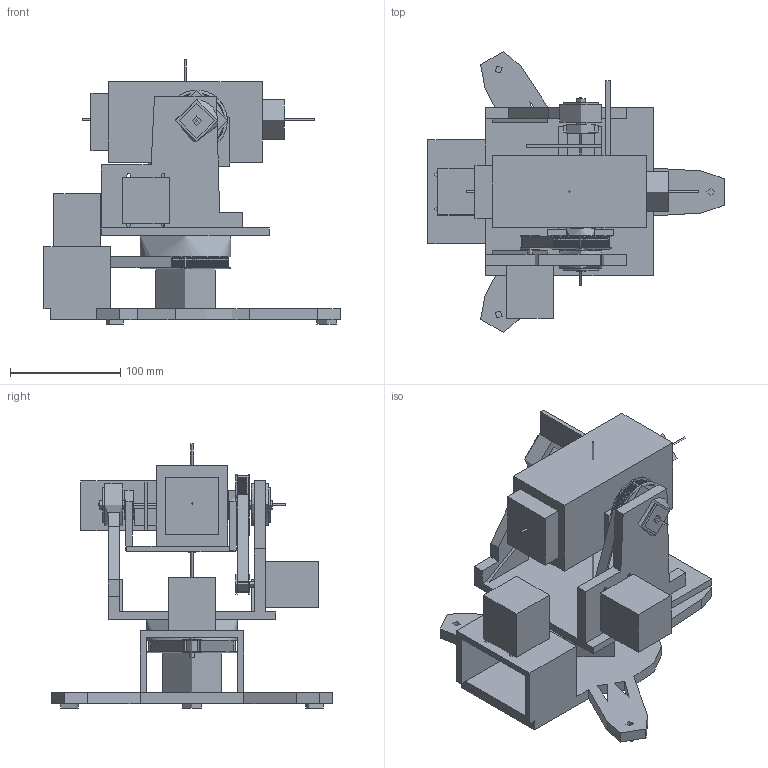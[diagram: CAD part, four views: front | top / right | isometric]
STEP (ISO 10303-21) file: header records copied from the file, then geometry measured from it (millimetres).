
FILE_DESCRIPTION(('FreeCAD Model'),'2;1');
FILE_NAME('Open CASCADE Shape Model','2026-08-28T20:43:35',('Author'),( ''),'Open CASCADE STEP processor 7.8','FreeCAD','Unknown');
FILE_SCHEMA(('AUTOMOTIVE_DESIGN { 1 0 10303 214 1 1 1 1 }'));
Length unit declared in the file: millimetre
Products named in the file (46): pantilt_hc_v760_reference_v8_51107_integral_pan_gt2; PAN_TILT_REFERENCE_V8_51107_INTEGRAL_PAN_GT2; BaseFixed; BASE_rubber_foot_0; BASE_rubber_foot_120; BASE_rubber_foot_240; BASE_three_leg_frame_51107_608_motor_mount; BASE_pan_motor_NEMA17; BASE_pan_motor_pilot; BASE_pan_motor_shaft; BASE_pan_motor_20T_pulley; BASE_pan_motor_20T_flanges; BASE_pan_608_radial_bearing_press_fit; BASE_pan_51107_lower_housing_washer; BASE_pan_51107_ball_cage; BASE_pan_51107_upper_shaft_washer; PanRotating; TiltRotating; TILT_ROTATING_one_piece_cradle_trunnions_80T; CAMERA_HC_V760_body_placeholder; CAMERA_HC_V760_lens; CAMERA_HC_V760_rear_battery; CAMERA_flip_screen_clearance_closed; CAMERA_flip_screen_clearance_open; CAMERA_HDMI_cable_clearance_20mm; CAMERA_nominal_COG; CAMERA_optical_axis; TILT_ROTATING_camera_mount_screw; PAN_ROTATING_one_piece_platform_journal_120T_GT2; BASE_pan_GT2_350mm_belt; PAN_ROTATING_left_608_bearing; PAN_ROTATING_right_608_bearing; PAN_ROTATING_left_bearing_cap; PAN_ROTATING_right_bearing_cap; PAN_ROTATING_tilt_motor_NEMA17; PAN_ROTATING_tilt_motor_pilot; PAN_ROTATING_tilt_motor_shaft; PAN_ROTATING_tilt_motor_20T_pulley; PAN_ROTATING_tilt_motor_20T_flanges; PAN_ROTATING_tilt_GT2_280mm_belt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
Assembly tree (112 placements, depth 5):
  pantilt_hc_v760_reference_v8_51107_integral_pan_gt2
    PAN_TILT_REFERENCE_V8_51107_INTEGRAL_PAN_GT2
      BaseFixed
        BASE_rubber_foot_0
        BASE_rubber_foot_120
        BASE_rubber_foot_240
        BASE_three_leg_frame_51107_608_motor_mount
        BASE_pan_motor_NEMA17
        BASE_pan_motor_pilot
        BASE_pan_motor_shaft
        BASE_pan_motor_20T_pulley
        BASE_pan_motor_20T_flanges
        BASE_pan_608_radial_bearing_press_fit
        BASE_pan_51107_lower_housing_washer
        BASE_pan_51107_ball_cage
        BASE_pan_51107_upper_shaft_washer
      PanRotating
        TiltRotating
          TILT_ROTATING_one_piece_cradle_trunnions_80T
          CAMERA_HC_V760_body_placeholder
          CAMERA_HC_V760_lens
          CAMERA_HC_V760_rear_battery
          CAMERA_flip_screen_clearance_closed
          CAMERA_flip_screen_clearance_open
          CAMERA_HDMI_cable_clearance_20mm
          CAMERA_nominal_COG
          CAMERA_optical_axis
          TILT_ROTATING_camera_mount_screw
        PAN_ROTATING_one_piece_platform_journal_120T_GT2
        BASE_pan_GT2_350mm_belt
        PAN_ROTATING_left_608_bearing
        PAN_ROTATING_right_608_bearing
        PAN_ROTATING_left_bearing_cap
        PAN_ROTATING_right_bearing_cap
        PAN_ROTATING_tilt_motor_NEMA17
        PAN_ROTATING_tilt_motor_pilot
        PAN_ROTATING_tilt_motor_shaft
        PAN_ROTATING_tilt_motor_20T_pulley
        PAN_ROTATING_tilt_motor_20T_flanges
        PAN_ROTATING_tilt_GT2_280mm_belt
      References
        REFERENCE_pan_axis
        REFERENCE_tilt_axis
    X-axis  x15
    XY-plane  x15
    BaseFixed
      BASE_rubber_foot_0
      BASE_rubber_foot_120
      BASE_rubber_foot_240
      BASE_three_leg_frame_51107_608_motor_mount
      BASE_pan_motor_NEMA17
      BASE_pan_motor_pilot
      BASE_pan_motor_shaft
      BASE_pan_motor_20T_pulley
      BASE_pan_motor_20T_flanges
      BASE_pan_608_radial_bearing_press_fit
      BASE_pan_51107_lower_housing_washer
      BASE_pan_51107_ball_cage
      BASE_pan_51107_upper_shaft_washer
    PanRotating
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Bounding box: 268 x 254.49 x 239 mm (x, y, z)
Volume: 6489040.1 mm3; surface area: 1252234.1 mm2
Topology: 176 solids, 176 shells, 5302 faces, 15008 edges, 10021 vertices
Faces by surface type: cylinder 3700, plane 1565, sphere 37
Full cylindrical faces by diameter (mm): 1.8 x4, 2 x4, 5 x24, 6.2 x4, 7.2 x9, 7.9 x11, 8 x9, 8.5 x6, 8.6 x6, 10.732 x6, 13.932 x6, 14.732 x6, 17.732 x12, 18 x9, 21.9 x3, 22 x15, 22.12 x6, 26 x8, 32 x6, 34.6 x3, 34.8 x3, 35 x3, 36 x4, 37 x3, 38 x6, 39 x3, 47 x3, 48.93 x3, 52 x6, 52.4 x6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
Entity records: 53500 total; most frequent: DIRECTION 10050, CARTESIAN_POINT 9100, ORIENTED_EDGE 8854, EDGE_CURVE 4427, AXIS2_PLACEMENT_3D 3927, VERTEX_POINT 2970, CIRCLE 2231, LINE 2196
